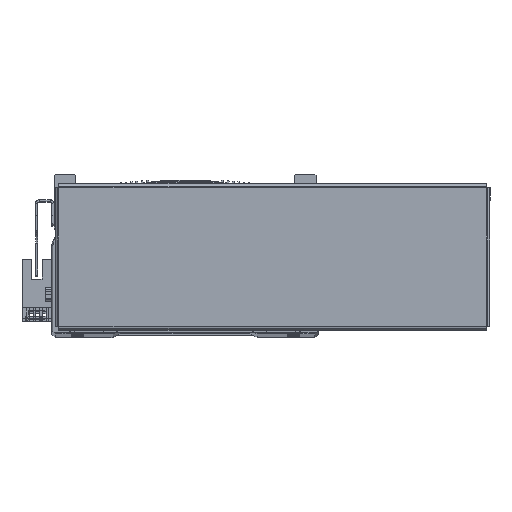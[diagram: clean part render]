
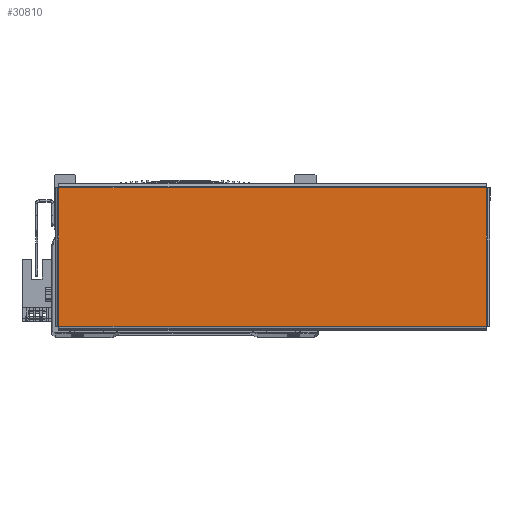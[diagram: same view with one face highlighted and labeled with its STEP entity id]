
A CAD part, top view. The second image highlights one B-rep face of the part: STEP entity #30810.
In plain terms, the highlighted planar face has unit normal (0, 0, 1) as drawn and (0, 0, -1) by its records, which use the part's own axes.
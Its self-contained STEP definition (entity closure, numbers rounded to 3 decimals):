
#7577 = CARTESIAN_POINT ( 'NONE',  ( 97.863, 31.763, -1. ) ) ;
#7628 = CARTESIAN_POINT ( 'NONE',  ( 97.863, -31.763, -1. ) ) ;
#7671 = CARTESIAN_POINT ( 'NONE',  ( -97.863, 31.763, -1. ) ) ;
#7730 = CARTESIAN_POINT ( 'NONE',  ( -97.863, -31.763, -1. ) ) ;
#11069 = FACE_OUTER_BOUND ( 'NONE', #21491, .T. ) ;
#21491 = EDGE_LOOP ( 'NONE', ( #21893, #21923, #21964, #21889 ) ) ;
#21889 = ORIENTED_EDGE ( 'NONE', *, *, #80688, .T. ) ;
#21893 = ORIENTED_EDGE ( 'NONE', *, *, #80649, .T. ) ;
#21923 = ORIENTED_EDGE ( 'NONE', *, *, #80591, .T. ) ;
#21964 = ORIENTED_EDGE ( 'NONE', *, *, #80600, .T. ) ;
#30810 = ADVANCED_FACE ( 'NONE', ( #11069 ), #45559, .F. ) ;
#38410 = AXIS2_PLACEMENT_3D ( 'NONE', #45520, #45586, #45572 ) ;
#45520 = CARTESIAN_POINT ( 'NONE',  ( 0., 0., -1. ) ) ;
#45559 = PLANE ( 'NONE',  #38410 ) ;
#45572 = DIRECTION ( 'NONE',  ( 1., 0., 0. ) ) ;
#45586 = DIRECTION ( 'NONE',  ( 0., 0., 1. ) ) ;
#62594 = CARTESIAN_POINT ( 'NONE',  ( 97.893, -31.763, -1. ) ) ;
#62615 = DIRECTION ( 'NONE',  ( -1., 0., 0. ) ) ;
#62650 = DIRECTION ( 'NONE',  ( 0., 1., 0. ) ) ;
#62675 = CARTESIAN_POINT ( 'NONE',  ( -97.863, -31.793, -1. ) ) ;
#62862 = CARTESIAN_POINT ( 'NONE',  ( 97.863, 31.793, -1. ) ) ;
#62904 = DIRECTION ( 'NONE',  ( 0., -1., 0. ) ) ;
#63181 = DIRECTION ( 'NONE',  ( 1., 0., 0. ) ) ;
#63240 = CARTESIAN_POINT ( 'NONE',  ( -97.893, 31.763, -1. ) ) ;
#66871 = VERTEX_POINT ( 'NONE', #7577 ) ;
#66932 = VERTEX_POINT ( 'NONE', #7671 ) ;
#66936 = VERTEX_POINT ( 'NONE', #7628 ) ;
#66975 = VERTEX_POINT ( 'NONE', #7730 ) ;
#74115 = VECTOR ( 'NONE', #62650, 1000. ) ;
#74133 = LINE ( 'NONE', #62594, #74203 ) ;
#74160 = LINE ( 'NONE', #62675, #74115 ) ;
#74203 = VECTOR ( 'NONE', #62615, 1000. ) ;
#74281 = LINE ( 'NONE', #62862, #74301 ) ;
#74301 = VECTOR ( 'NONE', #62904, 1000. ) ;
#74348 = LINE ( 'NONE', #63240, #74438 ) ;
#74438 = VECTOR ( 'NONE', #63181, 1000. ) ;
#80591 = EDGE_CURVE ( 'NONE', #66936, #66975, #74133, .T. ) ;
#80600 = EDGE_CURVE ( 'NONE', #66975, #66932, #74160, .T. ) ;
#80649 = EDGE_CURVE ( 'NONE', #66871, #66936, #74281, .T. ) ;
#80688 = EDGE_CURVE ( 'NONE', #66932, #66871, #74348, .T. ) ;
